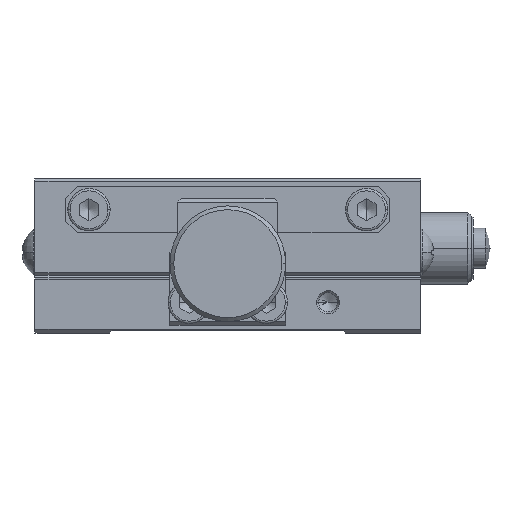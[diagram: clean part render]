
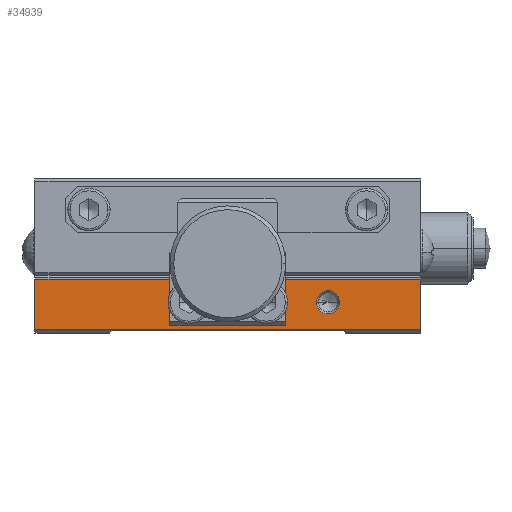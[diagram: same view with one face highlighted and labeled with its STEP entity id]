
A CAD part, left-side view. The second image highlights one B-rep face of the part: STEP entity #34939.
In plain terms, the highlighted planar face has unit normal (-1, 0, 0).
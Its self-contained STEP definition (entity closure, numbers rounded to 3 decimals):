
#6913 = CARTESIAN_POINT ( 'NONE',  ( -25., -14.5, 4. ) ) ;
#6914 = DIRECTION ( 'NONE',  ( 0., -1., 0. ) ) ;
#6915 = DIRECTION ( 'NONE',  ( -1., 0., 0. ) ) ;
#6916 = CARTESIAN_POINT ( 'NONE',  ( -25., -13., 4. ) ) ;
#6917 = AXIS2_PLACEMENT_3D ( 'NONE', #6916, #6915, #6914 ) ;
#6918 = CIRCLE ( 'NONE', #6917, 1.5 ) ;
#6919 = CARTESIAN_POINT ( 'NONE',  ( -25., -11.5, 4. ) ) ;
#8679 = CARTESIAN_POINT ( 'NONE',  ( -25., 25., 0.5 ) ) ;
#8680 = DIRECTION ( 'NONE',  ( 0., 0., -1. ) ) ;
#8681 = VECTOR ( 'NONE', #8680, 1000. ) ;
#8682 = CARTESIAN_POINT ( 'NONE',  ( -25., 25., 7. ) ) ;
#8683 = LINE ( 'NONE', #8682, #8681 ) ;
#8684 = CARTESIAN_POINT ( 'NONE',  ( -25., -25., 0.5 ) ) ;
#8685 = DIRECTION ( 'NONE',  ( 0., 0., -1. ) ) ;
#8686 = VECTOR ( 'NONE', #8685, 1000. ) ;
#8687 = CARTESIAN_POINT ( 'NONE',  ( -25., -25., 7. ) ) ;
#8688 = LINE ( 'NONE', #8687, #8686 ) ;
#8711 = CARTESIAN_POINT ( 'NONE',  ( -25., 7.5, 6. ) ) ;
#8712 = DIRECTION ( 'NONE',  ( 0., 0., 1. ) ) ;
#8713 = VECTOR ( 'NONE', #8712, 1000. ) ;
#8714 = CARTESIAN_POINT ( 'NONE',  ( -25., 7.5, 1. ) ) ;
#8715 = LINE ( 'NONE', #8714, #8713 ) ;
#8716 = CARTESIAN_POINT ( 'NONE',  ( -25., 7.5, 1. ) ) ;
#8717 = DIRECTION ( 'NONE',  ( 0., -1., 0. ) ) ;
#8718 = VECTOR ( 'NONE', #8717, 1000. ) ;
#8719 = CARTESIAN_POINT ( 'NONE',  ( -25., 25., 1. ) ) ;
#8720 = LINE ( 'NONE', #8719, #8718 ) ;
#8721 = CARTESIAN_POINT ( 'NONE',  ( -25., -7.5, 6. ) ) ;
#8722 = CARTESIAN_POINT ( 'NONE',  ( -25., -7.5, 1. ) ) ;
#8723 = DIRECTION ( 'NONE',  ( 0., 0., 1. ) ) ;
#8724 = VECTOR ( 'NONE', #8723, 1000. ) ;
#8725 = CARTESIAN_POINT ( 'NONE',  ( -25., -7.5, 7. ) ) ;
#8726 = LINE ( 'NONE', #8725, #8724 ) ;
#8727 = DIRECTION ( 'NONE',  ( 0., -1., 0. ) ) ;
#8728 = DIRECTION ( 'NONE',  ( -1., 0., 0. ) ) ;
#8729 = CARTESIAN_POINT ( 'NONE',  ( -25., 25., 7. ) ) ;
#8730 = AXIS2_PLACEMENT_3D ( 'NONE', #8729, #8728, #8727 ) ;
#8731 = PLANE ( 'NONE',  #8730 ) ;
#8732 = FACE_OUTER_BOUND ( 'NONE', #34928, .T. ) ;
#8733 = FACE_BOUND ( 'NONE', #34953, .T. ) ;
#8734 = FACE_BOUND ( 'NONE', #34940, .T. ) ;
#8735 = DIRECTION ( 'NONE',  ( 0., -1., 0. ) ) ;
#8736 = VECTOR ( 'NONE', #8735, 1000. ) ;
#8737 = CARTESIAN_POINT ( 'NONE',  ( -25., 25., 7. ) ) ;
#8738 = LINE ( 'NONE', #8737, #8736 ) ;
#8739 = DIRECTION ( 'NONE',  ( 0., -1., 0. ) ) ;
#8740 = VECTOR ( 'NONE', #8739, 1000. ) ;
#8741 = CARTESIAN_POINT ( 'NONE',  ( -25., 25., 0.5 ) ) ;
#8742 = LINE ( 'NONE', #8741, #8740 ) ;
#8755 = CARTESIAN_POINT ( 'NONE',  ( -25., 25., 7. ) ) ;
#8760 = CARTESIAN_POINT ( 'NONE',  ( -25., -25., 7. ) ) ;
#8770 = DIRECTION ( 'NONE',  ( 0., -1., 0. ) ) ;
#8771 = VECTOR ( 'NONE', #8770, 1000. ) ;
#8772 = CARTESIAN_POINT ( 'NONE',  ( -25., 7.5, 6. ) ) ;
#8773 = LINE ( 'NONE', #8772, #8771 ) ;
#8811 = DIRECTION ( 'NONE',  ( 0., -1., 0. ) ) ;
#8812 = DIRECTION ( 'NONE',  ( -1., 0., 0. ) ) ;
#8813 = CARTESIAN_POINT ( 'NONE',  ( -25., -13., 4. ) ) ;
#8814 = AXIS2_PLACEMENT_3D ( 'NONE', #8813, #8812, #8811 ) ;
#8815 = CIRCLE ( 'NONE', #8814, 1.5 ) ;
#33999 = VERTEX_POINT ( 'NONE', #6919 ) ;
#34001 = EDGE_CURVE ( 'NONE', #33999, #34002, #6918, .T. ) ;
#34002 = VERTEX_POINT ( 'NONE', #6913 ) ;
#34927 = ORIENTED_EDGE ( 'NONE', *, *, #34001, .F. ) ;
#34928 = EDGE_LOOP ( 'NONE', ( #34929, #34932, #34933, #34936 ) ) ;
#34929 = ORIENTED_EDGE ( 'NONE', *, *, #34930, .F. ) ;
#34930 = EDGE_CURVE ( 'NONE', #34961, #34931, #8688, .T. ) ;
#34931 = VERTEX_POINT ( 'NONE', #8684 ) ;
#34932 = ORIENTED_EDGE ( 'NONE', *, *, #34938, .F. ) ;
#34933 = ORIENTED_EDGE ( 'NONE', *, *, #34934, .T. ) ;
#34934 = EDGE_CURVE ( 'NONE', #34965, #34935, #8683, .T. ) ;
#34935 = VERTEX_POINT ( 'NONE', #8679 ) ;
#34936 = ORIENTED_EDGE ( 'NONE', *, *, #34937, .T. ) ;
#34937 = EDGE_CURVE ( 'NONE', #34935, #34931, #8742, .T. ) ;
#34938 = EDGE_CURVE ( 'NONE', #34965, #34961, #8738, .T. ) ;
#34939 = ADVANCED_FACE ( 'NONE', ( #8734, #8733, #8732 ), #8731, .T. ) ;
#34940 = EDGE_LOOP ( 'NONE', ( #34941, #34945, #34948, #34951 ) ) ;
#34941 = ORIENTED_EDGE ( 'NONE', *, *, #34942, .F. ) ;
#34942 = EDGE_CURVE ( 'NONE', #34943, #34944, #8726, .T. ) ;
#34943 = VERTEX_POINT ( 'NONE', #8722 ) ;
#34944 = VERTEX_POINT ( 'NONE', #8721 ) ;
#34945 = ORIENTED_EDGE ( 'NONE', *, *, #34946, .F. ) ;
#34946 = EDGE_CURVE ( 'NONE', #34947, #34943, #8720, .T. ) ;
#34947 = VERTEX_POINT ( 'NONE', #8716 ) ;
#34948 = ORIENTED_EDGE ( 'NONE', *, *, #34949, .T. ) ;
#34949 = EDGE_CURVE ( 'NONE', #34947, #34950, #8715, .T. ) ;
#34950 = VERTEX_POINT ( 'NONE', #8711 ) ;
#34951 = ORIENTED_EDGE ( 'NONE', *, *, #34952, .T. ) ;
#34952 = EDGE_CURVE ( 'NONE', #34950, #34944, #8773, .T. ) ;
#34953 = EDGE_LOOP ( 'NONE', ( #35008, #34927 ) ) ;
#34961 = VERTEX_POINT ( 'NONE', #8760 ) ;
#34965 = VERTEX_POINT ( 'NONE', #8755 ) ;
#35008 = ORIENTED_EDGE ( 'NONE', *, *, #35009, .F. ) ;
#35009 = EDGE_CURVE ( 'NONE', #34002, #33999, #8815, .T. ) ;
